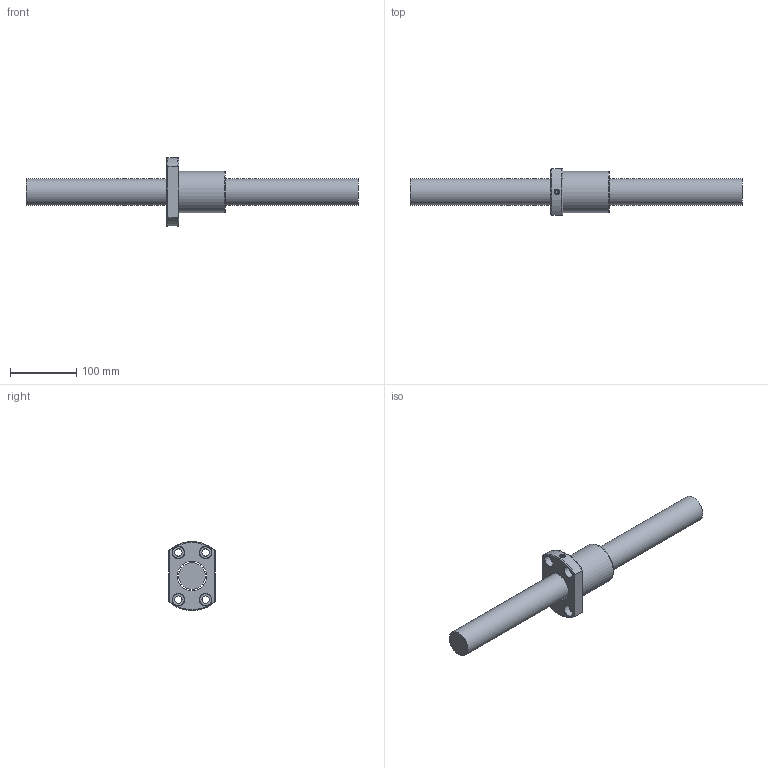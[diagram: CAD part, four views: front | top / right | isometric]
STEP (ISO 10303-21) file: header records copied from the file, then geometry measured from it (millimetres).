
FILE_DESCRIPTION (( 'STEP AP203' ), '1' );
FILE_NAME ('SFNI04010D-4.step', '2024-05-16T01:22:11', ( '' ), ( '' ), 'SwSTEP 2.0', 'SolidWorks 2022', '' );
FILE_SCHEMA (( 'CONFIG_CONTROL_DESIGN' ));
Length unit declared in the file: millimetre
Products named in the file (1): SFNI04010D-4
Bounding box: 500 x 70 x 103.83 mm (x, y, z)
Volume: 811338.4 mm3; surface area: 109532.4 mm2
Topology: 2 solids, 2 shells, 56 faces, 143 edges, 92 vertices
Faces by surface type: cylinder 21, plane 16, cone 9, bspline 5, torus 5
Full cylindrical faces by diameter (mm): 4 x1, 7 x6, 11 x4, 17.5 x4, 40 x1, 44.1 x1, 62 x1
Entity records: 3276 total; most frequent: CARTESIAN_POINT 2190, DIRECTION 198, ORIENTED_EDGE 182, AXIS2_PLACEMENT_3D 91, EDGE_CURVE 91, EDGE_LOOP 86, VERTEX_POINT 71, FACE_OUTER_BOUND 64
